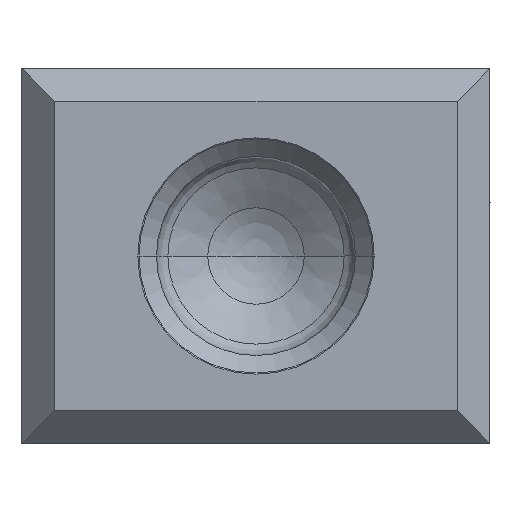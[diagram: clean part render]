
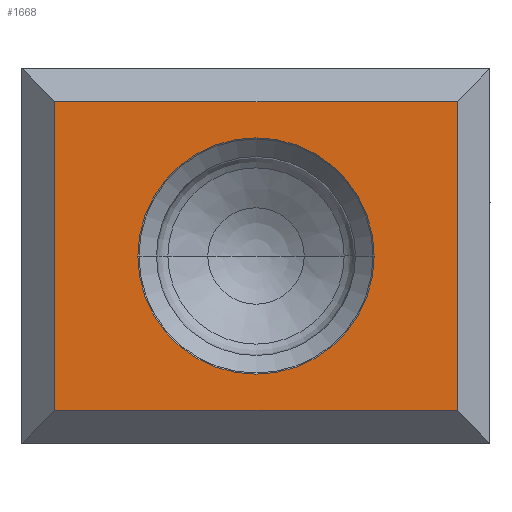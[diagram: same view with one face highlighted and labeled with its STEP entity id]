
A CAD part, left-side view. The second image highlights one B-rep face of the part: STEP entity #1668.
In plain terms, the highlighted planar face has unit normal (-1, 0, 0).
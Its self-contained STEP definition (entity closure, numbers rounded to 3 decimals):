
#247=DIRECTION('',(0.,1.,0.));
#248=VECTOR('',#247,8.6);
#249=CARTESIAN_POINT('',(-22.,0.7,3.3));
#250=LINE('',#249,#248);
#255=DIRECTION('',(0.,0.,-1.));
#256=VECTOR('',#255,6.6);
#257=CARTESIAN_POINT('',(-22.,0.7,3.3));
#258=LINE('',#257,#256);
#259=DIRECTION('',(0.,1.,0.));
#260=VECTOR('',#259,8.6);
#261=CARTESIAN_POINT('',(-22.,0.7,-3.3));
#262=LINE('',#261,#260);
#263=CARTESIAN_POINT('',(-22.,5.,0.));
#264=DIRECTION('',(-1.,0.,0.));
#265=DIRECTION('',(0.,1.,0.));
#266=AXIS2_PLACEMENT_3D('',#263,#264,#265);
#268=CARTESIAN_POINT('',(-22.,5.,0.));
#269=DIRECTION('',(-1.,0.,0.));
#270=DIRECTION('',(0.,-1.,0.));
#271=AXIS2_PLACEMENT_3D('',#268,#269,#270);
#583=DIRECTION('',(0.,0.,-1.));
#584=VECTOR('',#583,6.6);
#585=CARTESIAN_POINT('',(-22.,9.3,3.3));
#586=LINE('',#585,#584);
#1394=CARTESIAN_POINT('',(-22.,0.7,3.3));
#1395=CARTESIAN_POINT('',(-22.,9.3,3.3));
#1396=VERTEX_POINT('',#1394);
#1397=VERTEX_POINT('',#1395);
#1398=CARTESIAN_POINT('',(-22.,0.7,-3.3));
#1399=VERTEX_POINT('',#1398);
#1400=CARTESIAN_POINT('',(-22.,9.3,-3.3));
#1401=VERTEX_POINT('',#1400);
#1402=CARTESIAN_POINT('',(-22.,7.525,0.));
#1403=CARTESIAN_POINT('',(-22.,2.475,0.));
#1404=VERTEX_POINT('',#1402);
#1405=VERTEX_POINT('',#1403);
#1648=CARTESIAN_POINT('',(-22.,10.25,-5.25));
#1649=DIRECTION('',(-1.,0.,0.));
#1650=DIRECTION('',(0.,-1.,0.));
#1651=AXIS2_PLACEMENT_3D('',#1648,#1649,#1650);
#1652=PLANE('',#1651);
#1654=ORIENTED_EDGE('',*,*,#1653,.T.);
#1656=ORIENTED_EDGE('',*,*,#1655,.T.);
#1658=ORIENTED_EDGE('',*,*,#1657,.F.);
#1659=ORIENTED_EDGE('',*,*,#1638,.F.);
#1660=EDGE_LOOP('',(#1654,#1656,#1658,#1659));
#1661=FACE_OUTER_BOUND('',#1660,.F.);
#1663=ORIENTED_EDGE('',*,*,#1662,.T.);
#1665=ORIENTED_EDGE('',*,*,#1664,.T.);
#1666=EDGE_LOOP('',(#1663,#1665));
#1667=FACE_BOUND('',#1666,.F.);
#1668=ADVANCED_FACE('',(#1661,#1667),#1652,.T.);
#267=CIRCLE('',#266,2.525);
#272=CIRCLE('',#271,2.525);
#1638=EDGE_CURVE('',#1396,#1397,#250,.T.);
#1653=EDGE_CURVE('',#1396,#1399,#258,.T.);
#1655=EDGE_CURVE('',#1399,#1401,#262,.T.);
#1657=EDGE_CURVE('',#1397,#1401,#586,.T.);
#1662=EDGE_CURVE('',#1404,#1405,#267,.T.);
#1664=EDGE_CURVE('',#1405,#1404,#272,.T.);
